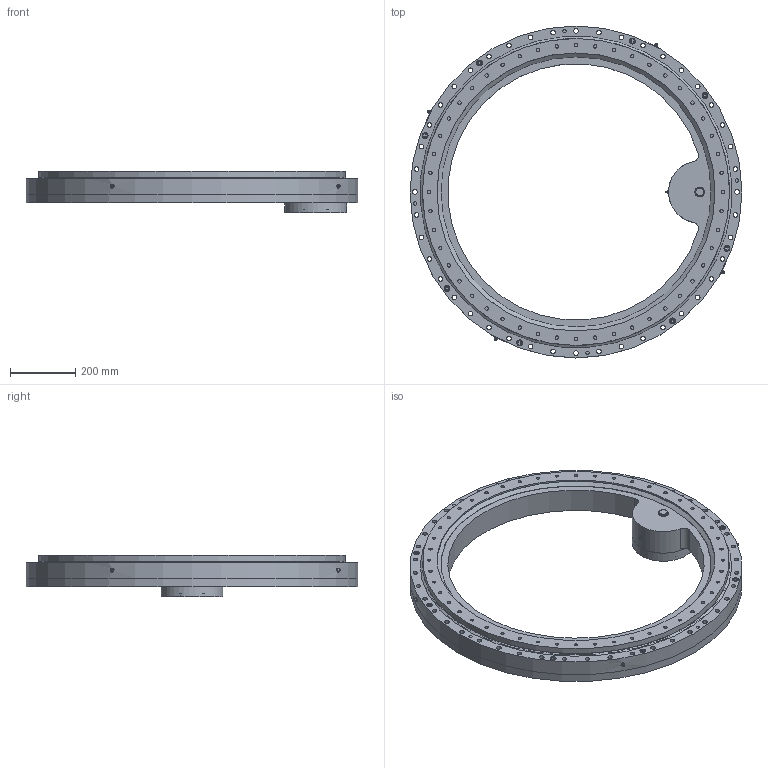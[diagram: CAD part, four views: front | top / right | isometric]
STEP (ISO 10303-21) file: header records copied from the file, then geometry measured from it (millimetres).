
FILE_DESCRIPTION(/* description */ ('STEP AP214'),/* implementation_level */ '2;1');
FILE_NAME(/* name */ '\\Serwer-ad\dnia$\dnia_tomasz_tb\Desktop\Tomcio\1. Cenniki + katalogi + materiały\U- Transmission\Katalogi 2023\Wersja NATECH DRV\Inner gear - slew drive\Our inner gear slew drive STEP\PT-M-0941-I-B-S.stp',/* time_stamp */ '2024-04-30T10:37:04+02:00',/* author */ ('dnia_tomasz_tb'),/* organization */ (''),/* preprocessor_version */ 'ST-DEVELOPER v19',/* originating_system */ 'Autodesk Inventor 2023',/* authorisation */ '');
FILE_SCHEMA (('AUTOMOTIVE_DESIGN { 1 0 10303 214 3 1 1 }'));
Length unit declared in the file: millimetre
Products named in the file (1): PT-M-0941-I-B-S
Bounding box: 1015 x 1015 x 126 mm (x, y, z)
Surface area: 1758684 mm2 (no closed solid volume)
Topology: 0 solids, 56 shells, 386 faces, 1250 edges, 900 vertices
Faces by surface type: cylinder 182, plane 159, torus 24, cone 17, sphere 4
Full cylindrical faces by diameter (mm): 2 x1, 8.5 x10, 10.2 x48, 14 x44, 16 x44, 18 x16, 26 x1, 30 x1, 65 x1, 80 x1, 88.333 x1, 130 x1, 190 x1, 850 x1, 939 x1, 1015 x2
Entity records: 16296 total; most frequent: CARTESIAN_POINT 3885, DIRECTION 2623, ORIENTED_EDGE 1971, EDGE_CURVE 1237, AXIS2_PLACEMENT_3D 1029, VERTEX_POINT 900, EDGE_LOOP 736, CIRCLE 642
